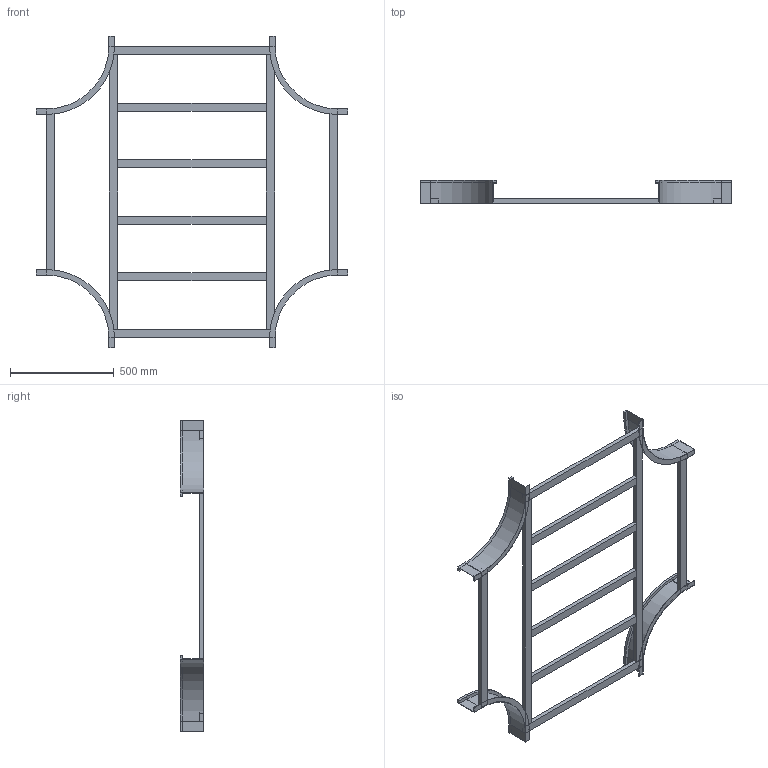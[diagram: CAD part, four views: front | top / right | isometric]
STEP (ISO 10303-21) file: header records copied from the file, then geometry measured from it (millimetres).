
FILE_DESCRIPTION (( 'STEP AP214' ), '1' );
FILE_NAME ('B2_17B3J800.step', '2025-02-21T15:57:33', ( '' ), ( '' ), 'SwSTEP 2.0', 'SolidWorks 2023', '' );
FILE_SCHEMA (( 'AUTOMOTIVE_DESIGN' ));
Length unit declared in the file: millimetre
Products named in the file (5): B2_17B3J800; B2_LONGH.INTERNO 90°_H112.5_R300; B2_TRAVERSINO_LONG._R300+800; TRAVERSINO_800; TRAVERSINO_INTERMEDIO_R300+800
Assembly tree (14 placements, depth 2):
  B2_17B3J800
    B2_LONGH.INTERNO 90°_H112.5_R300  x4
    TRAVERSINO_800  x4
    B2_TRAVERSINO_LONG._R300+800  x2
    TRAVERSINO_INTERMEDIO_R300+800  x4
Bounding box: 1500 x 112.5 x 1500 mm (x, y, z)
Volume: 8117527 mm3; surface area: 1790604.5 mm2
Topology: 14 solids, 14 shells, 164 faces, 344 edges, 208 vertices
Faces by surface type: plane 148, cylinder 16
Entity records: 1370 total; most frequent: DIRECTION 222, CARTESIAN_POINT 209, ORIENTED_EDGE 184, EDGE_CURVE 92, VECTOR 84, LINE 84, AXIS2_PLACEMENT_3D 69, VERTEX_POINT 56
